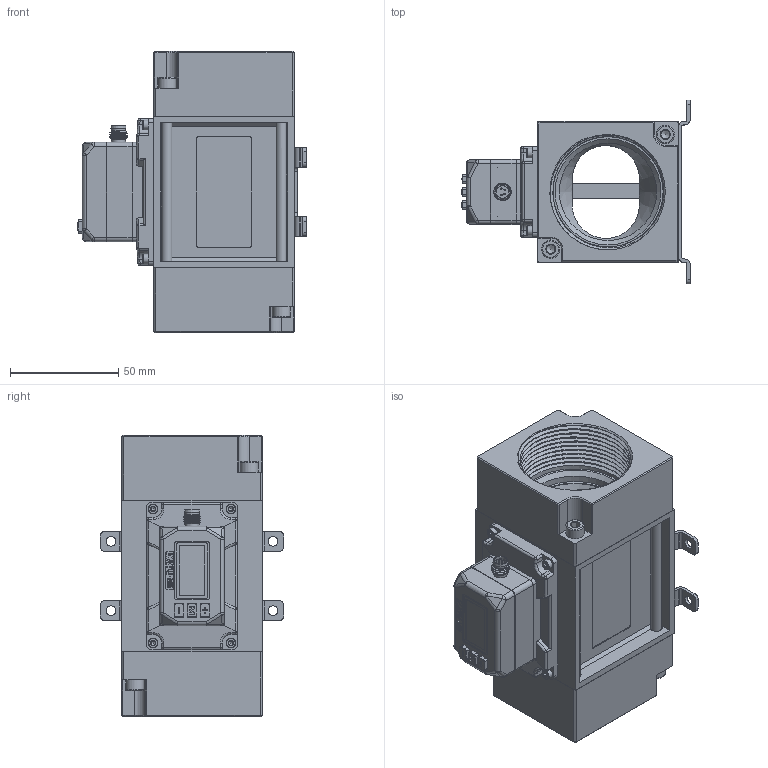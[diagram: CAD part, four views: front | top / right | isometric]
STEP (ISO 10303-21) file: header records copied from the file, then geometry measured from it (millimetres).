
FILE_DESCRIPTION( (''), '2;1');
FILE_NAME( 'QEKJ_400L_R1_M12_LED-display_bracket.step', '2023-06-27T08:39:17+08:00', (''), (''), '', '', '');
FILE_SCHEMA (('AUTOMOTIVE_DESIGN { 1 0 10303 214 3 1 1 1 }'));
Length unit declared in the file: millimetre
Products named in the file (1): QEKJ 400L_R1_M12_LED-display_bracket
Bounding box: 105.6 x 85 x 130 mm (x, y, z)
Volume: 274316.8 mm3; surface area: 130569.5 mm2
Topology: 19 solids, 20 shells, 1531 faces, 3785 edges, 2366 vertices
Faces by surface type: plane 835, cylinder 412, cone 142, torus 60, extrusion 44, sphere 28, bspline 10
Full cylindrical faces by diameter (mm): 0.6 x4, 1.6 x4, 2 x3, 2.05 x8, 2.38 x4, 2.8 x4, 3 x4, 3.3 x4, 4 x1, 4.2 x4, 4.5 x12, 4.826 x8, 5 x8, 5.5 x12, 5.8 x1, 6.5 x2, 8 x8, 8.5 x16, 45 x2, 51 x18
Entity records: 50168 total; most frequent: CARTESIAN_POINT 14819, DIRECTION 7005, ORIENTED_EDGE 6812, EDGE_CURVE 3406, AXIS2_PLACEMENT_3D 2474, VERTEX_POINT 2258, VECTOR 2057, LINE 2013
